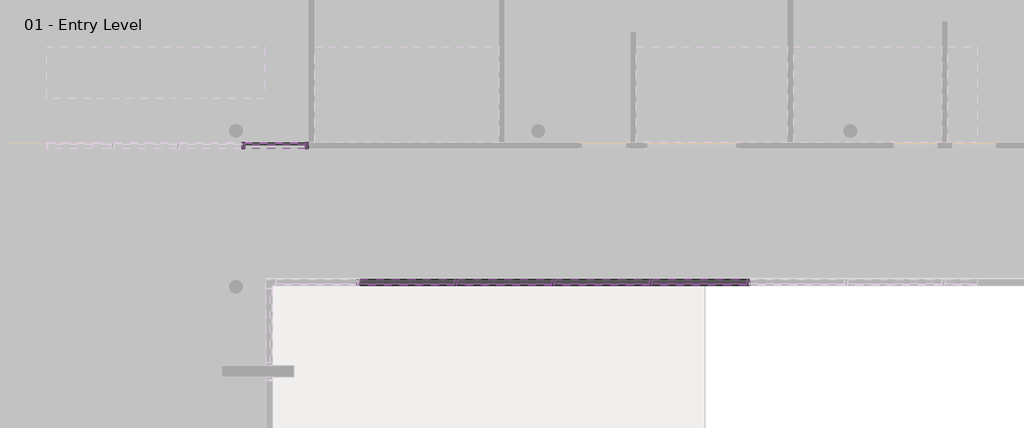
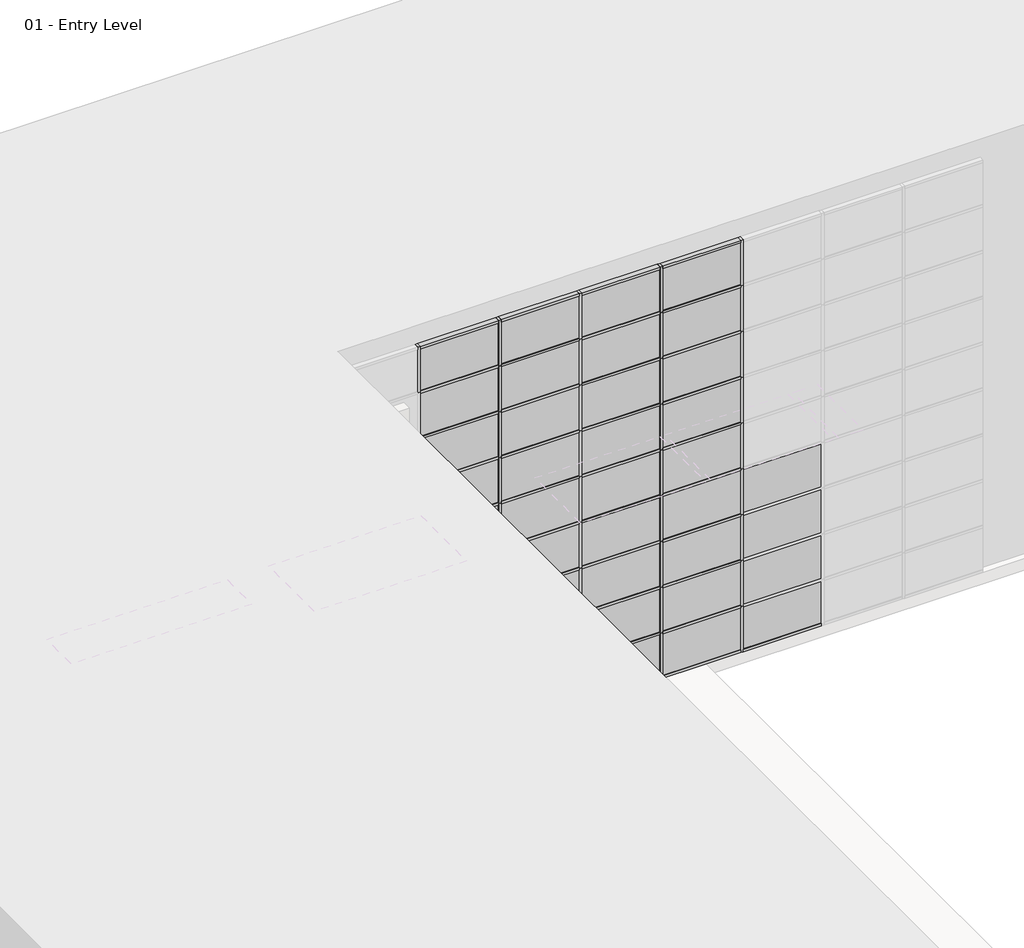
# One storey, part 26 of 34: 87 members, 42 plates.
"""IFC4 building model written with IfcOpenShell, lengths in millimetres."""

from ifc_helpers import new_model, si_unit, origin, place, context, project, spatial, transform, mapped, element, save
from components import member_2b49869a, member_18e22e2d, member_9193c932, member_391b434c, member_9e90ae50, member_e7b2e991, member_547128e5, member_76223ac8, member_6186cc23, member_5d67b9fc, member_c327c56d, member_a50b3cda, system_panel_glazed_1b9d6098, system_panel_glazed_70da479d, system_panel_glazed_7fb24999, system_panel_glazed_7bbe6979

model = new_model("IFC4")

# Units and contexts
model_context = context("Model", 3, world=origin())
ifc_project = project(units=[si_unit("LENGTHUNIT", "METRE", prefix="MILLI")], contexts=[model_context])

# Site, building, storey
site = spatial("IfcSite", under=ifc_project)
building = spatial("IfcBuilding", under=site)
storey = spatial("IfcBuildingStorey", under=building, Name="01 - Entry Level", Elevation=0.0)

# Members
placement = place(None, origin())
member_shape = member_2b49869a(model_context)
element("IfcMember", 1, ObjectType="Rectangular Mullion : 2.5\" x 5\" rectangular", at=placement, inside=storey, context=model_context, shape_type="MappedRepresentation", body=[
    mapped(member_shape, transform((19038.2207476, 42751.3, 9753.6), x_axis=(1.0, 0.0, 0.0), y_axis=(0.0, -1.0, 0.0), z_axis=(0.0, 0.0, -1.0))),
])
element("IfcMember", 2, ObjectType="Rectangular Mullion : 2.5\" x 5\" rectangular", at=placement, inside=storey, context=model_context, shape_type="MappedRepresentation", body=[
    mapped(member_shape, transform((21070.2207476, 42751.3, 9753.6), x_axis=(1.0, 0.0, 0.0), y_axis=(0.0, -1.0, 0.0), z_axis=(0.0, 0.0, -1.0))),
])
element("IfcMember", 3, ObjectType="Rectangular Mullion : 2.5\" x 5\" rectangular", at=placement, inside=storey, context=model_context, shape_type="MappedRepresentation", body=[
    mapped(member_shape, transform((23102.2207476, 42751.3, 9753.6), x_axis=(1.0, 0.0, 0.0), y_axis=(0.0, -1.0, 0.0), z_axis=(0.0, 0.0, -1.0))),
])
element("IfcMember", 4, ObjectType="Rectangular Mullion : 2.5\" x 5\" rectangular", at=placement, inside=storey, context=model_context, shape_type="MappedRepresentation", body=[
    mapped(member_shape, transform((25134.2207476, 42751.3, 9753.6), x_axis=(1.0, 0.0, 0.0), y_axis=(0.0, -1.0, 0.0), z_axis=(0.0, 0.0, -1.0))),
])
element("IfcMember", 5, ObjectType="Rectangular Mullion : 2.5\" x 5\" rectangular", at=placement, inside=storey, context=model_context, shape_type="MappedRepresentation", body=[
    mapped(member_shape, transform((27166.2207476, 42751.3, 9753.6), x_axis=(1.0, 0.0, 0.0), y_axis=(0.0, -1.0, 0.0), z_axis=(0.0, 0.0, -1.0))),
])
member_2_shape = member_18e22e2d(model_context)
element("IfcMember", 6, ObjectType="Rectangular Mullion : 2.5\" x 5\" rectangular", at=placement, inside=storey, context=model_context, shape_type="MappedRepresentation", body=[
    mapped(member_2_shape, transform((16637.9207476, 45608.8, 2438.4), x_axis=(-1.0, 0.0, 0.0), y_axis=(0.0, 1.0, 0.0), z_axis=(0.0, 0.0, -1.0))),
])
member_3_shape = member_9193c932(model_context)
element("IfcMember", 7, ObjectType="Rectangular Mullion : 2.5\" x 5\" rectangular", at=placement, inside=storey, context=model_context, shape_type="MappedRepresentation", body=[
    mapped(member_3_shape, transform((17996.8207476, 45608.8, 3403.6), x_axis=(1.0, 0.0, 0.0), y_axis=(0.0, 1.0, 0.0), z_axis=(0.0, 0.0, 1.0))),
])
member_4_shape = member_391b434c(model_context)
element("IfcMember", 8, ObjectType="Rectangular Mullion : 2.5\" x 5\" rectangular", at=placement, inside=storey, context=model_context, shape_type="MappedRepresentation", body=[
    mapped(member_4_shape, transform((21038.4707476, 42751.3, 10972.8), x_axis=(0.0, 0.0, 1.0), y_axis=(0.0, -1.0, 0.0), z_axis=(1.0, 0.0, 0.0))),
])
element("IfcMember", 9, ObjectType="Rectangular Mullion : 2.5\" x 5\" rectangular", at=placement, inside=storey, context=model_context, shape_type="MappedRepresentation", body=[
    mapped(member_4_shape, transform((23070.4707476, 42751.3, 10972.8), x_axis=(0.0, 0.0, 1.0), y_axis=(0.0, -1.0, 0.0), z_axis=(1.0, 0.0, 0.0))),
])
element("IfcMember", 10, ObjectType="Rectangular Mullion : 2.5\" x 5\" rectangular", at=placement, inside=storey, context=model_context, shape_type="MappedRepresentation", body=[
    mapped(member_4_shape, transform((25102.4707476, 42751.3, 10972.8), x_axis=(0.0, 0.0, 1.0), y_axis=(0.0, -1.0, 0.0), z_axis=(1.0, 0.0, 0.0))),
])
element("IfcMember", 11, ObjectType="Rectangular Mullion : 2.5\" x 5\" rectangular", at=placement, inside=storey, context=model_context, shape_type="MappedRepresentation", body=[
    mapped(member_4_shape, transform((27134.4707476, 42751.3, 10972.8), x_axis=(0.0, 0.0, 1.0), y_axis=(0.0, -1.0, 0.0), z_axis=(1.0, 0.0, 0.0))),
])
element("IfcMember", 12, ObjectType="Rectangular Mullion : 2.5\" x 5\" rectangular", at=placement, inside=storey, context=model_context, shape_type="MappedRepresentation", body=[
    mapped(member_4_shape, transform((21101.9707476, 42751.3, 0.0), x_axis=(0.0, 0.0, -1.0), y_axis=(0.0, -1.0, 0.0), z_axis=(-1.0, 0.0, 0.0))),
])
element("IfcMember", 13, ObjectType="Rectangular Mullion : 2.5\" x 5\" rectangular", at=placement, inside=storey, context=model_context, shape_type="MappedRepresentation", body=[
    mapped(member_4_shape, transform((23133.9707476, 42751.3, 0.0), x_axis=(0.0, 0.0, -1.0), y_axis=(0.0, -1.0, 0.0), z_axis=(-1.0, 0.0, 0.0))),
])
element("IfcMember", 14, ObjectType="Rectangular Mullion : 2.5\" x 5\" rectangular", at=placement, inside=storey, context=model_context, shape_type="MappedRepresentation", body=[
    mapped(member_4_shape, transform((25165.9707476, 42751.3, 0.0), x_axis=(0.0, 0.0, -1.0), y_axis=(0.0, -1.0, 0.0), z_axis=(-1.0, 0.0, 0.0))),
])
element("IfcMember", 15, ObjectType="Rectangular Mullion : 2.5\" x 5\" rectangular", at=placement, inside=storey, context=model_context, shape_type="MappedRepresentation", body=[
    mapped(member_4_shape, transform((27197.9707476, 42751.3, 0.0), x_axis=(0.0, 0.0, -1.0), y_axis=(0.0, -1.0, 0.0), z_axis=(-1.0, 0.0, 0.0))),
])
member_5_shape = member_9e90ae50(model_context)
element("IfcMember", 16, ObjectType="Rectangular Mullion : 2.5\" x 5\" rectangular", at=placement, inside=storey, context=model_context, shape_type="MappedRepresentation", body=[
    mapped(member_5_shape, transform((21038.4707476, 42751.3, 1219.2), x_axis=(0.0, 0.0, 1.0), y_axis=(0.0, -1.0, 0.0), z_axis=(1.0, 0.0, 0.0))),
])
element("IfcMember", 17, ObjectType="Rectangular Mullion : 2.5\" x 5\" rectangular", at=placement, inside=storey, context=model_context, shape_type="MappedRepresentation", body=[
    mapped(member_5_shape, transform((23070.4707476, 42751.3, 1219.2), x_axis=(0.0, 0.0, 1.0), y_axis=(0.0, -1.0, 0.0), z_axis=(1.0, 0.0, 0.0))),
])
element("IfcMember", 18, ObjectType="Rectangular Mullion : 2.5\" x 5\" rectangular", at=placement, inside=storey, context=model_context, shape_type="MappedRepresentation", body=[
    mapped(member_5_shape, transform((25102.4707476, 42751.3, 1219.2), x_axis=(0.0, 0.0, 1.0), y_axis=(0.0, -1.0, 0.0), z_axis=(1.0, 0.0, 0.0))),
])
element("IfcMember", 19, ObjectType="Rectangular Mullion : 2.5\" x 5\" rectangular", at=placement, inside=storey, context=model_context, shape_type="MappedRepresentation", body=[
    mapped(member_5_shape, transform((27134.4707476, 42751.3, 1219.2), x_axis=(0.0, 0.0, 1.0), y_axis=(0.0, -1.0, 0.0), z_axis=(1.0, 0.0, 0.0))),
])
element("IfcMember", 20, ObjectType="Rectangular Mullion : 2.5\" x 5\" rectangular", at=placement, inside=storey, context=model_context, shape_type="MappedRepresentation", body=[
    mapped(member_5_shape, transform((21038.4707476, 42751.3, 2438.4), x_axis=(0.0, 0.0, 1.0), y_axis=(0.0, -1.0, 0.0), z_axis=(1.0, 0.0, 0.0))),
])
element("IfcMember", 21, ObjectType="Rectangular Mullion : 2.5\" x 5\" rectangular", at=placement, inside=storey, context=model_context, shape_type="MappedRepresentation", body=[
    mapped(member_5_shape, transform((23070.4707476, 42751.3, 2438.4), x_axis=(0.0, 0.0, 1.0), y_axis=(0.0, -1.0, 0.0), z_axis=(1.0, 0.0, 0.0))),
])
element("IfcMember", 22, ObjectType="Rectangular Mullion : 2.5\" x 5\" rectangular", at=placement, inside=storey, context=model_context, shape_type="MappedRepresentation", body=[
    mapped(member_5_shape, transform((25102.4707476, 42751.3, 2438.4), x_axis=(0.0, 0.0, 1.0), y_axis=(0.0, -1.0, 0.0), z_axis=(1.0, 0.0, 0.0))),
])
element("IfcMember", 23, ObjectType="Rectangular Mullion : 2.5\" x 5\" rectangular", at=placement, inside=storey, context=model_context, shape_type="MappedRepresentation", body=[
    mapped(member_5_shape, transform((27134.4707476, 42751.3, 2438.4), x_axis=(0.0, 0.0, 1.0), y_axis=(0.0, -1.0, 0.0), z_axis=(1.0, 0.0, 0.0))),
])
element("IfcMember", 24, ObjectType="Rectangular Mullion : 2.5\" x 5\" rectangular", at=placement, inside=storey, context=model_context, shape_type="MappedRepresentation", body=[
    mapped(member_5_shape, transform((21038.4707476, 42751.3, 3657.6), x_axis=(0.0, 0.0, 1.0), y_axis=(0.0, -1.0, 0.0), z_axis=(1.0, 0.0, 0.0))),
])
element("IfcMember", 25, ObjectType="Rectangular Mullion : 2.5\" x 5\" rectangular", at=placement, inside=storey, context=model_context, shape_type="MappedRepresentation", body=[
    mapped(member_5_shape, transform((23070.4707476, 42751.3, 3657.6), x_axis=(0.0, 0.0, 1.0), y_axis=(0.0, -1.0, 0.0), z_axis=(1.0, 0.0, 0.0))),
])
element("IfcMember", 26, ObjectType="Rectangular Mullion : 2.5\" x 5\" rectangular", at=placement, inside=storey, context=model_context, shape_type="MappedRepresentation", body=[
    mapped(member_5_shape, transform((25102.4707476, 42751.3, 3657.6), x_axis=(0.0, 0.0, 1.0), y_axis=(0.0, -1.0, 0.0), z_axis=(1.0, 0.0, 0.0))),
])
element("IfcMember", 27, ObjectType="Rectangular Mullion : 2.5\" x 5\" rectangular", at=placement, inside=storey, context=model_context, shape_type="MappedRepresentation", body=[
    mapped(member_5_shape, transform((27134.4707476, 42751.3, 3657.6), x_axis=(0.0, 0.0, 1.0), y_axis=(0.0, -1.0, 0.0), z_axis=(1.0, 0.0, 0.0))),
])
element("IfcMember", 28, ObjectType="Rectangular Mullion : 2.5\" x 5\" rectangular", at=placement, inside=storey, context=model_context, shape_type="MappedRepresentation", body=[
    mapped(member_5_shape, transform((21038.4707476, 42751.3, 4876.8), x_axis=(0.0, 0.0, 1.0), y_axis=(0.0, -1.0, 0.0), z_axis=(1.0, 0.0, 0.0))),
])
element("IfcMember", 29, ObjectType="Rectangular Mullion : 2.5\" x 5\" rectangular", at=placement, inside=storey, context=model_context, shape_type="MappedRepresentation", body=[
    mapped(member_5_shape, transform((23070.4707476, 42751.3, 4876.8), x_axis=(0.0, 0.0, 1.0), y_axis=(0.0, -1.0, 0.0), z_axis=(1.0, 0.0, 0.0))),
])
element("IfcMember", 30, ObjectType="Rectangular Mullion : 2.5\" x 5\" rectangular", at=placement, inside=storey, context=model_context, shape_type="MappedRepresentation", body=[
    mapped(member_5_shape, transform((25102.4707476, 42751.3, 4876.8), x_axis=(0.0, 0.0, 1.0), y_axis=(0.0, -1.0, 0.0), z_axis=(1.0, 0.0, 0.0))),
])
element("IfcMember", 31, ObjectType="Rectangular Mullion : 2.5\" x 5\" rectangular", at=placement, inside=storey, context=model_context, shape_type="MappedRepresentation", body=[
    mapped(member_5_shape, transform((27134.4707476, 42751.3, 4876.8), x_axis=(0.0, 0.0, 1.0), y_axis=(0.0, -1.0, 0.0), z_axis=(1.0, 0.0, 0.0))),
])
element("IfcMember", 32, ObjectType="Rectangular Mullion : 2.5\" x 5\" rectangular", at=placement, inside=storey, context=model_context, shape_type="MappedRepresentation", body=[
    mapped(member_5_shape, transform((21038.4707476, 42751.3, 6096.0), x_axis=(0.0, 0.0, 1.0), y_axis=(0.0, -1.0, 0.0), z_axis=(1.0, 0.0, 0.0))),
])
element("IfcMember", 33, ObjectType="Rectangular Mullion : 2.5\" x 5\" rectangular", at=placement, inside=storey, context=model_context, shape_type="MappedRepresentation", body=[
    mapped(member_5_shape, transform((23070.4707476, 42751.3, 6096.0), x_axis=(0.0, 0.0, 1.0), y_axis=(0.0, -1.0, 0.0), z_axis=(1.0, 0.0, 0.0))),
])
element("IfcMember", 34, ObjectType="Rectangular Mullion : 2.5\" x 5\" rectangular", at=placement, inside=storey, context=model_context, shape_type="MappedRepresentation", body=[
    mapped(member_5_shape, transform((25102.4707476, 42751.3, 6096.0), x_axis=(0.0, 0.0, 1.0), y_axis=(0.0, -1.0, 0.0), z_axis=(1.0, 0.0, 0.0))),
])
element("IfcMember", 35, ObjectType="Rectangular Mullion : 2.5\" x 5\" rectangular", at=placement, inside=storey, context=model_context, shape_type="MappedRepresentation", body=[
    mapped(member_5_shape, transform((27134.4707476, 42751.3, 6096.0), x_axis=(0.0, 0.0, 1.0), y_axis=(0.0, -1.0, 0.0), z_axis=(1.0, 0.0, 0.0))),
])
element("IfcMember", 36, ObjectType="Rectangular Mullion : 2.5\" x 5\" rectangular", at=placement, inside=storey, context=model_context, shape_type="MappedRepresentation", body=[
    mapped(member_5_shape, transform((21038.4707476, 42751.3, 7315.2), x_axis=(0.0, 0.0, 1.0), y_axis=(0.0, -1.0, 0.0), z_axis=(1.0, 0.0, 0.0))),
])
element("IfcMember", 37, ObjectType="Rectangular Mullion : 2.5\" x 5\" rectangular", at=placement, inside=storey, context=model_context, shape_type="MappedRepresentation", body=[
    mapped(member_5_shape, transform((23070.4707476, 42751.3, 7315.2), x_axis=(0.0, 0.0, 1.0), y_axis=(0.0, -1.0, 0.0), z_axis=(1.0, 0.0, 0.0))),
])
element("IfcMember", 38, ObjectType="Rectangular Mullion : 2.5\" x 5\" rectangular", at=placement, inside=storey, context=model_context, shape_type="MappedRepresentation", body=[
    mapped(member_5_shape, transform((25102.4707476, 42751.3, 7315.2), x_axis=(0.0, 0.0, 1.0), y_axis=(0.0, -1.0, 0.0), z_axis=(1.0, 0.0, 0.0))),
])
element("IfcMember", 39, ObjectType="Rectangular Mullion : 2.5\" x 5\" rectangular", at=placement, inside=storey, context=model_context, shape_type="MappedRepresentation", body=[
    mapped(member_5_shape, transform((27134.4707476, 42751.3, 7315.2), x_axis=(0.0, 0.0, 1.0), y_axis=(0.0, -1.0, 0.0), z_axis=(1.0, 0.0, 0.0))),
])
element("IfcMember", 40, ObjectType="Rectangular Mullion : 2.5\" x 5\" rectangular", at=placement, inside=storey, context=model_context, shape_type="MappedRepresentation", body=[
    mapped(member_5_shape, transform((21038.4707476, 42751.3, 8534.4), x_axis=(0.0, 0.0, 1.0), y_axis=(0.0, -1.0, 0.0), z_axis=(1.0, 0.0, 0.0))),
])
element("IfcMember", 41, ObjectType="Rectangular Mullion : 2.5\" x 5\" rectangular", at=placement, inside=storey, context=model_context, shape_type="MappedRepresentation", body=[
    mapped(member_5_shape, transform((23070.4707476, 42751.3, 8534.4), x_axis=(0.0, 0.0, 1.0), y_axis=(0.0, -1.0, 0.0), z_axis=(1.0, 0.0, 0.0))),
])
element("IfcMember", 42, ObjectType="Rectangular Mullion : 2.5\" x 5\" rectangular", at=placement, inside=storey, context=model_context, shape_type="MappedRepresentation", body=[
    mapped(member_5_shape, transform((25102.4707476, 42751.3, 8534.4), x_axis=(0.0, 0.0, 1.0), y_axis=(0.0, -1.0, 0.0), z_axis=(1.0, 0.0, 0.0))),
])
element("IfcMember", 43, ObjectType="Rectangular Mullion : 2.5\" x 5\" rectangular", at=placement, inside=storey, context=model_context, shape_type="MappedRepresentation", body=[
    mapped(member_5_shape, transform((27134.4707476, 42751.3, 8534.4), x_axis=(0.0, 0.0, 1.0), y_axis=(0.0, -1.0, 0.0), z_axis=(1.0, 0.0, 0.0))),
])
element("IfcMember", 44, ObjectType="Rectangular Mullion : 2.5\" x 5\" rectangular", at=placement, inside=storey, context=model_context, shape_type="MappedRepresentation", body=[
    mapped(member_5_shape, transform((21038.4707476, 42751.3, 9753.6), x_axis=(0.0, 0.0, 1.0), y_axis=(0.0, -1.0, 0.0), z_axis=(1.0, 0.0, 0.0))),
])
element("IfcMember", 45, ObjectType="Rectangular Mullion : 2.5\" x 5\" rectangular", at=placement, inside=storey, context=model_context, shape_type="MappedRepresentation", body=[
    mapped(member_5_shape, transform((23070.4707476, 42751.3, 9753.6), x_axis=(0.0, 0.0, 1.0), y_axis=(0.0, -1.0, 0.0), z_axis=(1.0, 0.0, 0.0))),
])
element("IfcMember", 46, ObjectType="Rectangular Mullion : 2.5\" x 5\" rectangular", at=placement, inside=storey, context=model_context, shape_type="MappedRepresentation", body=[
    mapped(member_5_shape, transform((25102.4707476, 42751.3, 9753.6), x_axis=(0.0, 0.0, 1.0), y_axis=(0.0, -1.0, 0.0), z_axis=(1.0, 0.0, 0.0))),
])
element("IfcMember", 47, ObjectType="Rectangular Mullion : 2.5\" x 5\" rectangular", at=placement, inside=storey, context=model_context, shape_type="MappedRepresentation", body=[
    mapped(member_5_shape, transform((27134.4707476, 42751.3, 9753.6), x_axis=(0.0, 0.0, 1.0), y_axis=(0.0, -1.0, 0.0), z_axis=(1.0, 0.0, 0.0))),
])
element("IfcMember", 48, ObjectType="Rectangular Mullion : 2.5\" x 5\" rectangular", at=placement, inside=storey, context=model_context, shape_type="MappedRepresentation", body=[
    mapped(member_shape, transform((21070.2207476, 42751.3, 0.0), x_axis=(1.0, 0.0, 0.0), y_axis=(0.0, -1.0, 0.0), z_axis=(0.0, 0.0, -1.0))),
])
element("IfcMember", 49, ObjectType="Rectangular Mullion : 2.5\" x 5\" rectangular", at=placement, inside=storey, context=model_context, shape_type="MappedRepresentation", body=[
    mapped(member_shape, transform((23102.2207476, 42751.3, 0.0), x_axis=(1.0, 0.0, 0.0), y_axis=(0.0, -1.0, 0.0), z_axis=(0.0, 0.0, -1.0))),
])
element("IfcMember", 50, ObjectType="Rectangular Mullion : 2.5\" x 5\" rectangular", at=placement, inside=storey, context=model_context, shape_type="MappedRepresentation", body=[
    mapped(member_shape, transform((25134.2207476, 42751.3, 0.0), x_axis=(1.0, 0.0, 0.0), y_axis=(0.0, -1.0, 0.0), z_axis=(0.0, 0.0, -1.0))),
])
element("IfcMember", 51, ObjectType="Rectangular Mullion : 2.5\" x 5\" rectangular", at=placement, inside=storey, context=model_context, shape_type="MappedRepresentation", body=[
    mapped(member_shape, transform((27166.2207476, 42751.3, 0.0), x_axis=(1.0, 0.0, 0.0), y_axis=(0.0, -1.0, 0.0), z_axis=(0.0, 0.0, -1.0))),
])
element("IfcMember", 52, ObjectType="Rectangular Mullion : 2.5\" x 5\" rectangular", at=placement, inside=storey, context=model_context, shape_type="MappedRepresentation", body=[
    mapped(member_shape, transform((21070.2207476, 42751.3, 1219.2), x_axis=(1.0, 0.0, 0.0), y_axis=(0.0, -1.0, 0.0), z_axis=(0.0, 0.0, -1.0))),
])
element("IfcMember", 53, ObjectType="Rectangular Mullion : 2.5\" x 5\" rectangular", at=placement, inside=storey, context=model_context, shape_type="MappedRepresentation", body=[
    mapped(member_shape, transform((23102.2207476, 42751.3, 1219.2), x_axis=(1.0, 0.0, 0.0), y_axis=(0.0, -1.0, 0.0), z_axis=(0.0, 0.0, -1.0))),
])
element("IfcMember", 54, ObjectType="Rectangular Mullion : 2.5\" x 5\" rectangular", at=placement, inside=storey, context=model_context, shape_type="MappedRepresentation", body=[
    mapped(member_shape, transform((25134.2207476, 42751.3, 1219.2), x_axis=(1.0, 0.0, 0.0), y_axis=(0.0, -1.0, 0.0), z_axis=(0.0, 0.0, -1.0))),
])
element("IfcMember", 55, ObjectType="Rectangular Mullion : 2.5\" x 5\" rectangular", at=placement, inside=storey, context=model_context, shape_type="MappedRepresentation", body=[
    mapped(member_shape, transform((27166.2207476, 42751.3, 1219.2), x_axis=(1.0, 0.0, 0.0), y_axis=(0.0, -1.0, 0.0), z_axis=(0.0, 0.0, -1.0))),
])
element("IfcMember", 56, ObjectType="Rectangular Mullion : 2.5\" x 5\" rectangular", at=placement, inside=storey, context=model_context, shape_type="MappedRepresentation", body=[
    mapped(member_shape, transform((21070.2207476, 42751.3, 2438.4), x_axis=(1.0, 0.0, 0.0), y_axis=(0.0, -1.0, 0.0), z_axis=(0.0, 0.0, -1.0))),
])
element("IfcMember", 57, ObjectType="Rectangular Mullion : 2.5\" x 5\" rectangular", at=placement, inside=storey, context=model_context, shape_type="MappedRepresentation", body=[
    mapped(member_shape, transform((23102.2207476, 42751.3, 2438.4), x_axis=(1.0, 0.0, 0.0), y_axis=(0.0, -1.0, 0.0), z_axis=(0.0, 0.0, -1.0))),
])
element("IfcMember", 58, ObjectType="Rectangular Mullion : 2.5\" x 5\" rectangular", at=placement, inside=storey, context=model_context, shape_type="MappedRepresentation", body=[
    mapped(member_shape, transform((25134.2207476, 42751.3, 2438.4), x_axis=(1.0, 0.0, 0.0), y_axis=(0.0, -1.0, 0.0), z_axis=(0.0, 0.0, -1.0))),
])
element("IfcMember", 59, ObjectType="Rectangular Mullion : 2.5\" x 5\" rectangular", at=placement, inside=storey, context=model_context, shape_type="MappedRepresentation", body=[
    mapped(member_shape, transform((27166.2207476, 42751.3, 2438.4), x_axis=(1.0, 0.0, 0.0), y_axis=(0.0, -1.0, 0.0), z_axis=(0.0, 0.0, -1.0))),
])
element("IfcMember", 60, ObjectType="Rectangular Mullion : 2.5\" x 5\" rectangular", at=placement, inside=storey, context=model_context, shape_type="MappedRepresentation", body=[
    mapped(member_shape, transform((21070.2207476, 42751.3, 3657.6), x_axis=(1.0, 0.0, 0.0), y_axis=(0.0, -1.0, 0.0), z_axis=(0.0, 0.0, -1.0))),
])
element("IfcMember", 61, ObjectType="Rectangular Mullion : 2.5\" x 5\" rectangular", at=placement, inside=storey, context=model_context, shape_type="MappedRepresentation", body=[
    mapped(member_shape, transform((23102.2207476, 42751.3, 3657.6), x_axis=(1.0, 0.0, 0.0), y_axis=(0.0, -1.0, 0.0), z_axis=(0.0, 0.0, -1.0))),
])
element("IfcMember", 62, ObjectType="Rectangular Mullion : 2.5\" x 5\" rectangular", at=placement, inside=storey, context=model_context, shape_type="MappedRepresentation", body=[
    mapped(member_shape, transform((25134.2207476, 42751.3, 3657.6), x_axis=(1.0, 0.0, 0.0), y_axis=(0.0, -1.0, 0.0), z_axis=(0.0, 0.0, -1.0))),
])
element("IfcMember", 63, ObjectType="Rectangular Mullion : 2.5\" x 5\" rectangular", at=placement, inside=storey, context=model_context, shape_type="MappedRepresentation", body=[
    mapped(member_shape, transform((27166.2207476, 42751.3, 3657.6), x_axis=(1.0, 0.0, 0.0), y_axis=(0.0, -1.0, 0.0), z_axis=(0.0, 0.0, -1.0))),
])
element("IfcMember", 64, ObjectType="Rectangular Mullion : 2.5\" x 5\" rectangular", at=placement, inside=storey, context=model_context, shape_type="MappedRepresentation", body=[
    mapped(member_shape, transform((21070.2207476, 42751.3, 4876.8), x_axis=(1.0, 0.0, 0.0), y_axis=(0.0, -1.0, 0.0), z_axis=(0.0, 0.0, -1.0))),
])
element("IfcMember", 65, ObjectType="Rectangular Mullion : 2.5\" x 5\" rectangular", at=placement, inside=storey, context=model_context, shape_type="MappedRepresentation", body=[
    mapped(member_shape, transform((23102.2207476, 42751.3, 4876.8), x_axis=(1.0, 0.0, 0.0), y_axis=(0.0, -1.0, 0.0), z_axis=(0.0, 0.0, -1.0))),
])
element("IfcMember", 66, ObjectType="Rectangular Mullion : 2.5\" x 5\" rectangular", at=placement, inside=storey, context=model_context, shape_type="MappedRepresentation", body=[
    mapped(member_shape, transform((25134.2207476, 42751.3, 4876.8), x_axis=(1.0, 0.0, 0.0), y_axis=(0.0, -1.0, 0.0), z_axis=(0.0, 0.0, -1.0))),
])
element("IfcMember", 67, ObjectType="Rectangular Mullion : 2.5\" x 5\" rectangular", at=placement, inside=storey, context=model_context, shape_type="MappedRepresentation", body=[
    mapped(member_shape, transform((27166.2207476, 42751.3, 4876.8), x_axis=(1.0, 0.0, 0.0), y_axis=(0.0, -1.0, 0.0), z_axis=(0.0, 0.0, -1.0))),
])
element("IfcMember", 68, ObjectType="Rectangular Mullion : 2.5\" x 5\" rectangular", at=placement, inside=storey, context=model_context, shape_type="MappedRepresentation", body=[
    mapped(member_shape, transform((21070.2207476, 42751.3, 6096.0), x_axis=(1.0, 0.0, 0.0), y_axis=(0.0, -1.0, 0.0), z_axis=(0.0, 0.0, -1.0))),
])
element("IfcMember", 69, ObjectType="Rectangular Mullion : 2.5\" x 5\" rectangular", at=placement, inside=storey, context=model_context, shape_type="MappedRepresentation", body=[
    mapped(member_shape, transform((23102.2207476, 42751.3, 6096.0), x_axis=(1.0, 0.0, 0.0), y_axis=(0.0, -1.0, 0.0), z_axis=(0.0, 0.0, -1.0))),
])
element("IfcMember", 70, ObjectType="Rectangular Mullion : 2.5\" x 5\" rectangular", at=placement, inside=storey, context=model_context, shape_type="MappedRepresentation", body=[
    mapped(member_shape, transform((25134.2207476, 42751.3, 6096.0), x_axis=(1.0, 0.0, 0.0), y_axis=(0.0, -1.0, 0.0), z_axis=(0.0, 0.0, -1.0))),
])
element("IfcMember", 71, ObjectType="Rectangular Mullion : 2.5\" x 5\" rectangular", at=placement, inside=storey, context=model_context, shape_type="MappedRepresentation", body=[
    mapped(member_shape, transform((27166.2207476, 42751.3, 6096.0), x_axis=(1.0, 0.0, 0.0), y_axis=(0.0, -1.0, 0.0), z_axis=(0.0, 0.0, -1.0))),
])
element("IfcMember", 72, ObjectType="Rectangular Mullion : 2.5\" x 5\" rectangular", at=placement, inside=storey, context=model_context, shape_type="MappedRepresentation", body=[
    mapped(member_shape, transform((21070.2207476, 42751.3, 7315.2), x_axis=(1.0, 0.0, 0.0), y_axis=(0.0, -1.0, 0.0), z_axis=(0.0, 0.0, -1.0))),
])
element("IfcMember", 73, ObjectType="Rectangular Mullion : 2.5\" x 5\" rectangular", at=placement, inside=storey, context=model_context, shape_type="MappedRepresentation", body=[
    mapped(member_shape, transform((23102.2207476, 42751.3, 7315.2), x_axis=(1.0, 0.0, 0.0), y_axis=(0.0, -1.0, 0.0), z_axis=(0.0, 0.0, -1.0))),
])
element("IfcMember", 74, ObjectType="Rectangular Mullion : 2.5\" x 5\" rectangular", at=placement, inside=storey, context=model_context, shape_type="MappedRepresentation", body=[
    mapped(member_shape, transform((25134.2207476, 42751.3, 7315.2), x_axis=(1.0, 0.0, 0.0), y_axis=(0.0, -1.0, 0.0), z_axis=(0.0, 0.0, -1.0))),
])
element("IfcMember", 75, ObjectType="Rectangular Mullion : 2.5\" x 5\" rectangular", at=placement, inside=storey, context=model_context, shape_type="MappedRepresentation", body=[
    mapped(member_shape, transform((27166.2207476, 42751.3, 7315.2), x_axis=(1.0, 0.0, 0.0), y_axis=(0.0, -1.0, 0.0), z_axis=(0.0, 0.0, -1.0))),
])
element("IfcMember", 76, ObjectType="Rectangular Mullion : 2.5\" x 5\" rectangular", at=placement, inside=storey, context=model_context, shape_type="MappedRepresentation", body=[
    mapped(member_shape, transform((21070.2207476, 42751.3, 8534.4), x_axis=(1.0, 0.0, 0.0), y_axis=(0.0, -1.0, 0.0), z_axis=(0.0, 0.0, -1.0))),
])
element("IfcMember", 77, ObjectType="Rectangular Mullion : 2.5\" x 5\" rectangular", at=placement, inside=storey, context=model_context, shape_type="MappedRepresentation", body=[
    mapped(member_shape, transform((23102.2207476, 42751.3, 8534.4), x_axis=(1.0, 0.0, 0.0), y_axis=(0.0, -1.0, 0.0), z_axis=(0.0, 0.0, -1.0))),
])
element("IfcMember", 78, ObjectType="Rectangular Mullion : 2.5\" x 5\" rectangular", at=placement, inside=storey, context=model_context, shape_type="MappedRepresentation", body=[
    mapped(member_shape, transform((25134.2207476, 42751.3, 8534.4), x_axis=(1.0, 0.0, 0.0), y_axis=(0.0, -1.0, 0.0), z_axis=(0.0, 0.0, -1.0))),
])
element("IfcMember", 79, ObjectType="Rectangular Mullion : 2.5\" x 5\" rectangular", at=placement, inside=storey, context=model_context, shape_type="MappedRepresentation", body=[
    mapped(member_shape, transform((27166.2207476, 42751.3, 8534.4), x_axis=(1.0, 0.0, 0.0), y_axis=(0.0, -1.0, 0.0), z_axis=(0.0, 0.0, -1.0))),
])
member_6_shape = member_e7b2e991(model_context)
element("IfcMember", 80, ObjectType="Rectangular Mullion : 2.5\" x 5\" rectangular", at=placement, inside=storey, context=model_context, shape_type="MappedRepresentation", body=[
    mapped(member_6_shape, transform((16669.6707476, 45608.8, 3403.6), x_axis=(0.0, 0.0, 1.0), y_axis=(0.0, 1.0, 0.0), z_axis=(-1.0, 0.0, 0.0))),
])
element("IfcMember", 81, ObjectType="Rectangular Mullion : 2.5\" x 5\" rectangular", at=placement, inside=storey, context=model_context, shape_type="MappedRepresentation", body=[
    mapped(member_6_shape, transform((17933.3207476, 45608.8, 0.0), x_axis=(0.0, 0.0, -1.0), y_axis=(0.0, 1.0, 0.0), z_axis=(1.0, 0.0, 0.0))),
])
member_7_shape = member_547128e5(model_context)
element("IfcMember", 82, ObjectType="Rectangular Mullion : 2.5\" x 5\" rectangular", at=placement, inside=storey, context=model_context, shape_type="MappedRepresentation", body=[
    mapped(member_7_shape, transform((16606.1707476, 45608.8, 0.0), x_axis=(0.0, 0.0, -1.0), y_axis=(0.0, 1.0, 0.0), z_axis=(1.0, 0.0, 0.0))),
])
member_8_shape = member_76223ac8(model_context)
element("IfcMember", 83, ObjectType="Rectangular Mullion : 2.5\" x 5\" rectangular", at=placement, inside=storey, context=model_context, shape_type="MappedRepresentation", body=[
    mapped(member_8_shape, transform((16669.6707476, 45608.8, 2438.4), x_axis=(0.0, 0.0, 1.0), y_axis=(0.0, 1.0, 0.0), z_axis=(-1.0, 0.0, 0.0))),
])
member_9_shape = member_6186cc23(model_context)
element("IfcMember", 84, ObjectType="Rectangular Mullion : 2.5\" x 5\" rectangular", at=placement, inside=storey, context=model_context, shape_type="MappedRepresentation", body=[
    mapped(member_9_shape, transform((16637.9207476, 45608.8, 0.0), x_axis=(-1.0, 0.0, 0.0), y_axis=(0.0, 1.0, 0.0), z_axis=(0.0, 0.0, -1.0))),
])
member_10_shape = member_5d67b9fc(model_context)
element("IfcMember", 85, ObjectType="Rectangular Mullion : 2.5\" x 5\" rectangular", at=placement, inside=storey, context=model_context, shape_type="MappedRepresentation", body=[
    mapped(member_10_shape, transform((16637.9207476, 45608.8, 2165.35), x_axis=(-1.0, 0.0, 0.0), y_axis=(0.0, 1.0, 0.0), z_axis=(0.0, 0.0, -1.0))),
])
member_11_shape = member_c327c56d(model_context)
element("IfcMember", 86, ObjectType="Rectangular Mullion : 2.5\" x 5\" rectangular", at=placement, inside=storey, context=model_context, shape_type="MappedRepresentation", body=[
    mapped(member_11_shape, transform((17996.8207476, 45608.8, 2438.4), x_axis=(1.0, 0.0, 0.0), y_axis=(0.0, 1.0, 0.0), z_axis=(0.0, 0.0, 1.0))),
])
member_12_shape = member_a50b3cda(model_context)
element("IfcMember", 87, ObjectType="Rectangular Mullion : 2.5\" x 5\" rectangular", at=placement, inside=storey, context=model_context, shape_type="MappedRepresentation", body=[
    mapped(member_12_shape, transform((17996.8207476, 45608.8, 2165.35), x_axis=(1.0, 0.0, 0.0), y_axis=(0.0, 1.0, 0.0), z_axis=(0.0, 0.0, 1.0))),
])

# Plates
system_panel_glazed_shape = system_panel_glazed_1b9d6098(model_context)
element("IfcPlate", 88, ObjectType="System Panel : Glazed", at=placement, inside=storey, context=model_context, shape_type="MappedRepresentation", body=[
    mapped(system_panel_glazed_shape, transform((20054.2207476, 42751.3, 63.5), x_axis=(1.0, 0.0, 0.0), y_axis=(0.0, 1.0, 0.0), z_axis=(0.0, 0.0, 1.0))),
])
element("IfcPlate", 89, ObjectType="System Panel : Glazed", at=placement, inside=storey, context=model_context, shape_type="MappedRepresentation", body=[
    mapped(system_panel_glazed_shape, transform((22086.2207476, 42751.3, 63.5), x_axis=(1.0, 0.0, 0.0), y_axis=(0.0, 1.0, 0.0), z_axis=(0.0, 0.0, 1.0))),
])
element("IfcPlate", 90, ObjectType="System Panel : Glazed", at=placement, inside=storey, context=model_context, shape_type="MappedRepresentation", body=[
    mapped(system_panel_glazed_shape, transform((24118.2207476, 42751.3, 63.5), x_axis=(1.0, 0.0, 0.0), y_axis=(0.0, 1.0, 0.0), z_axis=(0.0, 0.0, 1.0))),
])
element("IfcPlate", 91, ObjectType="System Panel : Glazed", at=placement, inside=storey, context=model_context, shape_type="MappedRepresentation", body=[
    mapped(system_panel_glazed_shape, transform((26150.2207476, 42751.3, 63.5), x_axis=(1.0, 0.0, 0.0), y_axis=(0.0, 1.0, 0.0), z_axis=(0.0, 0.0, 1.0))),
])
element("IfcPlate", 92, ObjectType="System Panel : Glazed", at=placement, inside=storey, context=model_context, shape_type="MappedRepresentation", body=[
    mapped(system_panel_glazed_shape, transform((28182.2207476, 42751.3, 63.5), x_axis=(1.0, 0.0, 0.0), y_axis=(0.0, 1.0, 0.0), z_axis=(0.0, 0.0, 1.0))),
])
element("IfcPlate", 93, ObjectType="System Panel : Glazed", at=placement, inside=storey, context=model_context, shape_type="MappedRepresentation", body=[
    mapped(system_panel_glazed_shape, transform((20054.2207476, 42751.3, 9785.35), x_axis=(1.0, 0.0, 0.0), y_axis=(0.0, 1.0, 0.0), z_axis=(0.0, 0.0, 1.0))),
])
element("IfcPlate", 94, ObjectType="System Panel : Glazed", at=placement, inside=storey, context=model_context, shape_type="MappedRepresentation", body=[
    mapped(system_panel_glazed_shape, transform((22086.2207476, 42751.3, 9785.35), x_axis=(1.0, 0.0, 0.0), y_axis=(0.0, 1.0, 0.0), z_axis=(0.0, 0.0, 1.0))),
])
element("IfcPlate", 95, ObjectType="System Panel : Glazed", at=placement, inside=storey, context=model_context, shape_type="MappedRepresentation", body=[
    mapped(system_panel_glazed_shape, transform((24118.2207476, 42751.3, 9785.35), x_axis=(1.0, 0.0, 0.0), y_axis=(0.0, 1.0, 0.0), z_axis=(0.0, 0.0, 1.0))),
])
element("IfcPlate", 96, ObjectType="System Panel : Glazed", at=placement, inside=storey, context=model_context, shape_type="MappedRepresentation", body=[
    mapped(system_panel_glazed_shape, transform((26150.2207476, 42751.3, 9785.35), x_axis=(1.0, 0.0, 0.0), y_axis=(0.0, 1.0, 0.0), z_axis=(0.0, 0.0, 1.0))),
])
system_panel_glazed_2_shape = system_panel_glazed_70da479d(model_context)
element("IfcPlate", 97, ObjectType="System Panel : Glazed", at=placement, inside=storey, context=model_context, shape_type="MappedRepresentation", body=[
    mapped(system_panel_glazed_2_shape, transform((20054.2207476, 42751.3, 1250.95), x_axis=(1.0, 0.0, 0.0), y_axis=(0.0, 1.0, 0.0), z_axis=(0.0, 0.0, 1.0))),
])
element("IfcPlate", 98, ObjectType="System Panel : Glazed", at=placement, inside=storey, context=model_context, shape_type="MappedRepresentation", body=[
    mapped(system_panel_glazed_2_shape, transform((22086.2207476, 42751.3, 1250.95), x_axis=(1.0, 0.0, 0.0), y_axis=(0.0, 1.0, 0.0), z_axis=(0.0, 0.0, 1.0))),
])
element("IfcPlate", 99, ObjectType="System Panel : Glazed", at=placement, inside=storey, context=model_context, shape_type="MappedRepresentation", body=[
    mapped(system_panel_glazed_2_shape, transform((24118.2207476, 42751.3, 1250.95), x_axis=(1.0, 0.0, 0.0), y_axis=(0.0, 1.0, 0.0), z_axis=(0.0, 0.0, 1.0))),
])
element("IfcPlate", 100, ObjectType="System Panel : Glazed", at=placement, inside=storey, context=model_context, shape_type="MappedRepresentation", body=[
    mapped(system_panel_glazed_2_shape, transform((26150.2207476, 42751.3, 1250.95), x_axis=(1.0, 0.0, 0.0), y_axis=(0.0, 1.0, 0.0), z_axis=(0.0, 0.0, 1.0))),
])
element("IfcPlate", 101, ObjectType="System Panel : Glazed", at=placement, inside=storey, context=model_context, shape_type="MappedRepresentation", body=[
    mapped(system_panel_glazed_2_shape, transform((28182.2207476, 42751.3, 1250.95), x_axis=(1.0, 0.0, 0.0), y_axis=(0.0, 1.0, 0.0), z_axis=(0.0, 0.0, 1.0))),
])
element("IfcPlate", 102, ObjectType="System Panel : Glazed", at=placement, inside=storey, context=model_context, shape_type="MappedRepresentation", body=[
    mapped(system_panel_glazed_2_shape, transform((20054.2207476, 42751.3, 2470.15), x_axis=(1.0, 0.0, 0.0), y_axis=(0.0, 1.0, 0.0), z_axis=(0.0, 0.0, 1.0))),
])
element("IfcPlate", 103, ObjectType="System Panel : Glazed", at=placement, inside=storey, context=model_context, shape_type="MappedRepresentation", body=[
    mapped(system_panel_glazed_2_shape, transform((22086.2207476, 42751.3, 2470.15), x_axis=(1.0, 0.0, 0.0), y_axis=(0.0, 1.0, 0.0), z_axis=(0.0, 0.0, 1.0))),
])
element("IfcPlate", 104, ObjectType="System Panel : Glazed", at=placement, inside=storey, context=model_context, shape_type="MappedRepresentation", body=[
    mapped(system_panel_glazed_2_shape, transform((24118.2207476, 42751.3, 2470.15), x_axis=(1.0, 0.0, 0.0), y_axis=(0.0, 1.0, 0.0), z_axis=(0.0, 0.0, 1.0))),
])
element("IfcPlate", 105, ObjectType="System Panel : Glazed", at=placement, inside=storey, context=model_context, shape_type="MappedRepresentation", body=[
    mapped(system_panel_glazed_2_shape, transform((26150.2207476, 42751.3, 2470.15), x_axis=(1.0, 0.0, 0.0), y_axis=(0.0, 1.0, 0.0), z_axis=(0.0, 0.0, 1.0))),
])
element("IfcPlate", 106, ObjectType="System Panel : Glazed", at=placement, inside=storey, context=model_context, shape_type="MappedRepresentation", body=[
    mapped(system_panel_glazed_2_shape, transform((28182.2207476, 42751.3, 2470.15), x_axis=(1.0, 0.0, 0.0), y_axis=(0.0, 1.0, 0.0), z_axis=(0.0, 0.0, 1.0))),
])
element("IfcPlate", 107, ObjectType="System Panel : Glazed", at=placement, inside=storey, context=model_context, shape_type="MappedRepresentation", body=[
    mapped(system_panel_glazed_2_shape, transform((20054.2207476, 42751.3, 3689.35), x_axis=(1.0, 0.0, 0.0), y_axis=(0.0, 1.0, 0.0), z_axis=(0.0, 0.0, 1.0))),
])
element("IfcPlate", 108, ObjectType="System Panel : Glazed", at=placement, inside=storey, context=model_context, shape_type="MappedRepresentation", body=[
    mapped(system_panel_glazed_2_shape, transform((22086.2207476, 42751.3, 3689.35), x_axis=(1.0, 0.0, 0.0), y_axis=(0.0, 1.0, 0.0), z_axis=(0.0, 0.0, 1.0))),
])
element("IfcPlate", 109, ObjectType="System Panel : Glazed", at=placement, inside=storey, context=model_context, shape_type="MappedRepresentation", body=[
    mapped(system_panel_glazed_2_shape, transform((24118.2207476, 42751.3, 3689.35), x_axis=(1.0, 0.0, 0.0), y_axis=(0.0, 1.0, 0.0), z_axis=(0.0, 0.0, 1.0))),
])
element("IfcPlate", 110, ObjectType="System Panel : Glazed", at=placement, inside=storey, context=model_context, shape_type="MappedRepresentation", body=[
    mapped(system_panel_glazed_2_shape, transform((26150.2207476, 42751.3, 3689.35), x_axis=(1.0, 0.0, 0.0), y_axis=(0.0, 1.0, 0.0), z_axis=(0.0, 0.0, 1.0))),
])
element("IfcPlate", 111, ObjectType="System Panel : Glazed", at=placement, inside=storey, context=model_context, shape_type="MappedRepresentation", body=[
    mapped(system_panel_glazed_2_shape, transform((28182.2207476, 42751.3, 3689.35), x_axis=(1.0, 0.0, 0.0), y_axis=(0.0, 1.0, 0.0), z_axis=(0.0, 0.0, 1.0))),
])
element("IfcPlate", 112, ObjectType="System Panel : Glazed", at=placement, inside=storey, context=model_context, shape_type="MappedRepresentation", body=[
    mapped(system_panel_glazed_2_shape, transform((20054.2207476, 42751.3, 4908.55), x_axis=(1.0, 0.0, 0.0), y_axis=(0.0, 1.0, 0.0), z_axis=(0.0, 0.0, 1.0))),
])
element("IfcPlate", 113, ObjectType="System Panel : Glazed", at=placement, inside=storey, context=model_context, shape_type="MappedRepresentation", body=[
    mapped(system_panel_glazed_2_shape, transform((22086.2207476, 42751.3, 4908.55), x_axis=(1.0, 0.0, 0.0), y_axis=(0.0, 1.0, 0.0), z_axis=(0.0, 0.0, 1.0))),
])
element("IfcPlate", 114, ObjectType="System Panel : Glazed", at=placement, inside=storey, context=model_context, shape_type="MappedRepresentation", body=[
    mapped(system_panel_glazed_2_shape, transform((24118.2207476, 42751.3, 4908.55), x_axis=(1.0, 0.0, 0.0), y_axis=(0.0, 1.0, 0.0), z_axis=(0.0, 0.0, 1.0))),
])
element("IfcPlate", 115, ObjectType="System Panel : Glazed", at=placement, inside=storey, context=model_context, shape_type="MappedRepresentation", body=[
    mapped(system_panel_glazed_2_shape, transform((26150.2207476, 42751.3, 4908.55), x_axis=(1.0, 0.0, 0.0), y_axis=(0.0, 1.0, 0.0), z_axis=(0.0, 0.0, 1.0))),
])
element("IfcPlate", 116, ObjectType="System Panel : Glazed", at=placement, inside=storey, context=model_context, shape_type="MappedRepresentation", body=[
    mapped(system_panel_glazed_2_shape, transform((20054.2207476, 42751.3, 6127.75), x_axis=(1.0, 0.0, 0.0), y_axis=(0.0, 1.0, 0.0), z_axis=(0.0, 0.0, 1.0))),
])
element("IfcPlate", 117, ObjectType="System Panel : Glazed", at=placement, inside=storey, context=model_context, shape_type="MappedRepresentation", body=[
    mapped(system_panel_glazed_2_shape, transform((22086.2207476, 42751.3, 6127.75), x_axis=(1.0, 0.0, 0.0), y_axis=(0.0, 1.0, 0.0), z_axis=(0.0, 0.0, 1.0))),
])
element("IfcPlate", 118, ObjectType="System Panel : Glazed", at=placement, inside=storey, context=model_context, shape_type="MappedRepresentation", body=[
    mapped(system_panel_glazed_2_shape, transform((24118.2207476, 42751.3, 6127.75), x_axis=(1.0, 0.0, 0.0), y_axis=(0.0, 1.0, 0.0), z_axis=(0.0, 0.0, 1.0))),
])
element("IfcPlate", 119, ObjectType="System Panel : Glazed", at=placement, inside=storey, context=model_context, shape_type="MappedRepresentation", body=[
    mapped(system_panel_glazed_2_shape, transform((26150.2207476, 42751.3, 6127.75), x_axis=(1.0, 0.0, 0.0), y_axis=(0.0, 1.0, 0.0), z_axis=(0.0, 0.0, 1.0))),
])
element("IfcPlate", 120, ObjectType="System Panel : Glazed", at=placement, inside=storey, context=model_context, shape_type="MappedRepresentation", body=[
    mapped(system_panel_glazed_2_shape, transform((20054.2207476, 42751.3, 7346.95), x_axis=(1.0, 0.0, 0.0), y_axis=(0.0, 1.0, 0.0), z_axis=(0.0, 0.0, 1.0))),
])
element("IfcPlate", 121, ObjectType="System Panel : Glazed", at=placement, inside=storey, context=model_context, shape_type="MappedRepresentation", body=[
    mapped(system_panel_glazed_2_shape, transform((22086.2207476, 42751.3, 7346.95), x_axis=(1.0, 0.0, 0.0), y_axis=(0.0, 1.0, 0.0), z_axis=(0.0, 0.0, 1.0))),
])
element("IfcPlate", 122, ObjectType="System Panel : Glazed", at=placement, inside=storey, context=model_context, shape_type="MappedRepresentation", body=[
    mapped(system_panel_glazed_2_shape, transform((24118.2207476, 42751.3, 7346.95), x_axis=(1.0, 0.0, 0.0), y_axis=(0.0, 1.0, 0.0), z_axis=(0.0, 0.0, 1.0))),
])
element("IfcPlate", 123, ObjectType="System Panel : Glazed", at=placement, inside=storey, context=model_context, shape_type="MappedRepresentation", body=[
    mapped(system_panel_glazed_2_shape, transform((26150.2207476, 42751.3, 7346.95), x_axis=(1.0, 0.0, 0.0), y_axis=(0.0, 1.0, 0.0), z_axis=(0.0, 0.0, 1.0))),
])
element("IfcPlate", 124, ObjectType="System Panel : Glazed", at=placement, inside=storey, context=model_context, shape_type="MappedRepresentation", body=[
    mapped(system_panel_glazed_2_shape, transform((20054.2207476, 42751.3, 8566.15), x_axis=(1.0, 0.0, 0.0), y_axis=(0.0, 1.0, 0.0), z_axis=(0.0, 0.0, 1.0))),
])
element("IfcPlate", 125, ObjectType="System Panel : Glazed", at=placement, inside=storey, context=model_context, shape_type="MappedRepresentation", body=[
    mapped(system_panel_glazed_2_shape, transform((22086.2207476, 42751.3, 8566.15), x_axis=(1.0, 0.0, 0.0), y_axis=(0.0, 1.0, 0.0), z_axis=(0.0, 0.0, 1.0))),
])
element("IfcPlate", 126, ObjectType="System Panel : Glazed", at=placement, inside=storey, context=model_context, shape_type="MappedRepresentation", body=[
    mapped(system_panel_glazed_2_shape, transform((24118.2207476, 42751.3, 8566.15), x_axis=(1.0, 0.0, 0.0), y_axis=(0.0, 1.0, 0.0), z_axis=(0.0, 0.0, 1.0))),
])
element("IfcPlate", 127, ObjectType="System Panel : Glazed", at=placement, inside=storey, context=model_context, shape_type="MappedRepresentation", body=[
    mapped(system_panel_glazed_2_shape, transform((26150.2207476, 42751.3, 8566.15), x_axis=(1.0, 0.0, 0.0), y_axis=(0.0, 1.0, 0.0), z_axis=(0.0, 0.0, 1.0))),
])
system_panel_glazed_3_shape = system_panel_glazed_7fb24999(model_context)
element("IfcPlate", 128, ObjectType="System Panel : Glazed", at=placement, inside=storey, context=model_context, shape_type="MappedRepresentation", body=[
    mapped(system_panel_glazed_3_shape, transform((17301.4957476, 45608.8, 2470.15), x_axis=(-1.0, 0.0, 0.0), y_axis=(0.0, -1.0, 0.0), z_axis=(0.0, 0.0, 1.0))),
])
system_panel_glazed_4_shape = system_panel_glazed_7bbe6979(model_context)
element("IfcPlate", 129, ObjectType="System Panel : Glazed", at=placement, inside=storey, context=model_context, shape_type="MappedRepresentation", body=[
    mapped(system_panel_glazed_4_shape, transform((17301.4957476, 45608.8, 63.5), x_axis=(-1.0, 0.0, 0.0), y_axis=(0.0, -1.0, 0.0), z_axis=(0.0, 0.0, 1.0))),
])

save(model, "model.ifc")
